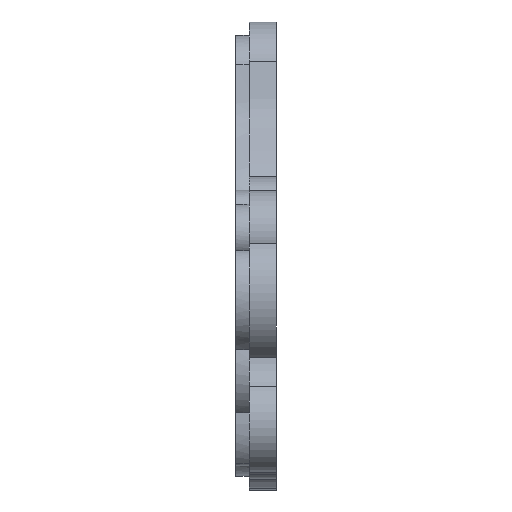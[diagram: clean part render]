
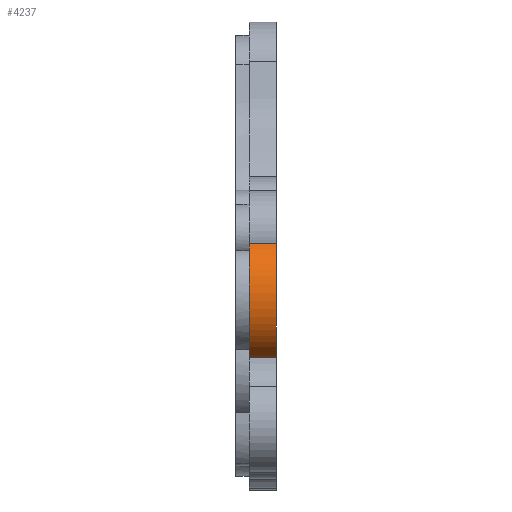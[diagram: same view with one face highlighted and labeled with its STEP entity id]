
A CAD part, left-side view. The second image highlights one B-rep face of the part: STEP entity #4237.
In plain terms, the highlighted free-form (B-spline) face has degree [3, 1] with [12, 2] control points.
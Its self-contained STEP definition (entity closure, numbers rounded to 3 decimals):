
#70 = CARTESIAN_POINT ( 'NONE',  ( -16.659, 0., -5.718 ) ) ;
#101 = VERTEX_POINT ( 'NONE', #4721 ) ;
#196 = CARTESIAN_POINT ( 'NONE',  ( -15.044, 2., -6.922 ) ) ;
#292 = CARTESIAN_POINT ( 'NONE',  ( -16.659, 2., -5.718 ) ) ;
#364 = CARTESIAN_POINT ( 'NONE',  ( -16.659, 2., -5.718 ) ) ;
#475 = CARTESIAN_POINT ( 'NONE',  ( -15.962, 0., 1.367 ) ) ;
#699 = CARTESIAN_POINT ( 'NONE',  ( -17.126, 0., 0.212 ) ) ;
#781 = CARTESIAN_POINT ( 'NONE',  ( -17.848, 0., -2.313 ) ) ;
#827 = CARTESIAN_POINT ( 'NONE',  ( -15.328, 0., -6.771 ) ) ;
#976 = VECTOR ( 'NONE', #4507, 1000. ) ;
#996 = CARTESIAN_POINT ( 'NONE',  ( -15.328, 2., -6.771 ) ) ;
#1032 = CARTESIAN_POINT ( 'NONE',  ( -17.706, 2., -3.611 ) ) ;
#1074 = CARTESIAN_POINT ( 'NONE',  ( -16.427, 0., 1.018 ) ) ;
#1100 = CARTESIAN_POINT ( 'NONE',  ( -17.655, 2., -0.931 ) ) ;
#1116 = VERTEX_POINT ( 'NONE', #1661 ) ;
#1152 = CARTESIAN_POINT ( 'NONE',  ( -16.427, 0., 1.018 ) ) ;
#1281 = EDGE_CURVE ( 'NONE', #4601, #101, #2661, .T. ) ;
#1431 = CARTESIAN_POINT ( 'NONE',  ( -15.328, 2., -6.771 ) ) ;
#1473 = CARTESIAN_POINT ( 'NONE',  ( -17.848, 2., -2.313 ) ) ;
#1499 = CARTESIAN_POINT ( 'NONE',  ( -15.862, 0., -6.448 ) ) ;
#1661 = CARTESIAN_POINT ( 'NONE',  ( -15.719, 0., 1.51 ) ) ;
#1793 = CARTESIAN_POINT ( 'NONE',  ( -15.862, 2., -6.448 ) ) ;
#1812 = CARTESIAN_POINT ( 'NONE',  ( -15.719, 2., 1.51 ) ) ;
#1862 = CARTESIAN_POINT ( 'NONE',  ( -17.292, 0., -4.763 ) ) ;
#1882 = CARTESIAN_POINT ( 'NONE',  ( -15.044, 2., -6.922 ) ) ;
#1932 = CARTESIAN_POINT ( 'NONE',  ( -17.655, 0., -0.931 ) ) ;
#2032 = VECTOR ( 'NONE', #3435, 1000. ) ;
#2171 = ORIENTED_EDGE ( 'NONE', *, *, #1281, .T. ) ;
#2198 = CARTESIAN_POINT ( 'NONE',  ( -17.848, 0., -2.313 ) ) ;
#2201 = LINE ( 'NONE', #4157, #976 ) ;
#2233 = EDGE_CURVE ( 'NONE', #4809, #1116, #2201, .T. ) ;
#2276 = CARTESIAN_POINT ( 'NONE',  ( -15.044, 0., -6.922 ) ) ;
#2480 = B_SPLINE_SURFACE_WITH_KNOTS ( 'NONE', 3, 1, ( 
 ( #1812, #3318 ),
 ( #4081, #2946 ),
 ( #4455, #1074 ),
 ( #2570, #699 ),
 ( #1100, #4006 ),
 ( #1473, #2198 ),
 ( #3634, #2973 ),
 ( #4480, #1862 ),
 ( #364, #4106 ),
 ( #4871, #1499 ),
 ( #996, #2498 ),
 ( #2671, #2276 ) ),
 .UNSPECIFIED., .F., .F., .F.,
 ( 4, 1, 1, 1, 1, 1, 1, 1, 1, 4 ),
 ( 2, 2 ),
 ( 0.066, 0.119, 0.171, 0.276, 0.382, 0.487, 0.592, 0.698, 0.803, 0.908 ),
 ( 0., 1. ),
 .UNSPECIFIED. ) ;
#2498 = CARTESIAN_POINT ( 'NONE',  ( -15.328, 0., -6.771 ) ) ;
#2503 = B_SPLINE_CURVE_WITH_KNOTS ( 'NONE', 3,
 ( #3401, #475, #1152, #4205, #1932, #781, #3442, #2997, #70, #4502, #827, #3830 ),
 .UNSPECIFIED., .F., .F.,
 ( 4, 1, 1, 1, 1, 1, 1, 1, 1, 4 ),
 ( 0.066, 0.119, 0.171, 0.276, 0.382, 0.487, 0.592, 0.698, 0.803, 0.908 ),
 .UNSPECIFIED. ) ;
#2570 = CARTESIAN_POINT ( 'NONE',  ( -17.126, 2., 0.212 ) ) ;
#2582 = EDGE_LOOP ( 'NONE', ( #3624, #3506, #3040, #2171 ) ) ;
#2585 = CARTESIAN_POINT ( 'NONE',  ( -15.044, 2., -6.922 ) ) ;
#2661 = LINE ( 'NONE', #2585, #2032 ) ;
#2671 = CARTESIAN_POINT ( 'NONE',  ( -15.044, 2., -6.922 ) ) ;
#2826 = CARTESIAN_POINT ( 'NONE',  ( -17.126, 2., 0.212 ) ) ;
#2906 = CARTESIAN_POINT ( 'NONE',  ( -15.962, 2., 1.367 ) ) ;
#2946 = CARTESIAN_POINT ( 'NONE',  ( -15.962, 0., 1.367 ) ) ;
#2973 = CARTESIAN_POINT ( 'NONE',  ( -17.706, 0., -3.611 ) ) ;
#2997 = CARTESIAN_POINT ( 'NONE',  ( -17.292, 0., -4.763 ) ) ;
#3040 = ORIENTED_EDGE ( 'NONE', *, *, #3940, .T. ) ;
#3318 = CARTESIAN_POINT ( 'NONE',  ( -15.719, 0., 1.51 ) ) ;
#3340 = CARTESIAN_POINT ( 'NONE',  ( -15.719, 2., 1.51 ) ) ;
#3401 = CARTESIAN_POINT ( 'NONE',  ( -15.719, 0., 1.51 ) ) ;
#3435 = DIRECTION ( 'NONE',  ( 0., -1., 0. ) ) ;
#3442 = CARTESIAN_POINT ( 'NONE',  ( -17.706, 0., -3.611 ) ) ;
#3506 = ORIENTED_EDGE ( 'NONE', *, *, #2233, .F. ) ;
#3576 = CARTESIAN_POINT ( 'NONE',  ( -17.655, 2., -0.931 ) ) ;
#3624 = ORIENTED_EDGE ( 'NONE', *, *, #4345, .F. ) ;
#3634 = CARTESIAN_POINT ( 'NONE',  ( -17.706, 2., -3.611 ) ) ;
#3668 = CARTESIAN_POINT ( 'NONE',  ( -16.427, 2., 1.018 ) ) ;
#3684 = FACE_OUTER_BOUND ( 'NONE', #2582, .T. ) ;
#3830 = CARTESIAN_POINT ( 'NONE',  ( -15.044, 0., -6.922 ) ) ;
#3940 = EDGE_CURVE ( 'NONE', #4809, #4601, #4484, .T. ) ;
#4006 = CARTESIAN_POINT ( 'NONE',  ( -17.655, 0., -0.931 ) ) ;
#4043 = CARTESIAN_POINT ( 'NONE',  ( -17.292, 2., -4.763 ) ) ;
#4069 = CARTESIAN_POINT ( 'NONE',  ( -15.719, 2., 1.51 ) ) ;
#4081 = CARTESIAN_POINT ( 'NONE',  ( -15.962, 2., 1.367 ) ) ;
#4106 = CARTESIAN_POINT ( 'NONE',  ( -16.659, 0., -5.718 ) ) ;
#4157 = CARTESIAN_POINT ( 'NONE',  ( -15.719, 2., 1.51 ) ) ;
#4205 = CARTESIAN_POINT ( 'NONE',  ( -17.126, 0., 0.212 ) ) ;
#4237 = ADVANCED_FACE ( 'NONE', ( #3684 ), #2480, .T. ) ;
#4345 = EDGE_CURVE ( 'NONE', #1116, #101, #2503, .T. ) ;
#4416 = CARTESIAN_POINT ( 'NONE',  ( -17.848, 2., -2.313 ) ) ;
#4455 = CARTESIAN_POINT ( 'NONE',  ( -16.427, 2., 1.018 ) ) ;
#4480 = CARTESIAN_POINT ( 'NONE',  ( -17.292, 2., -4.763 ) ) ;
#4484 = B_SPLINE_CURVE_WITH_KNOTS ( 'NONE', 3,
 ( #4069, #2906, #3668, #2826, #3576, #4416, #1032, #4043, #292, #1793, #1431, #196 ),
 .UNSPECIFIED., .F., .F.,
 ( 4, 1, 1, 1, 1, 1, 1, 1, 1, 4 ),
 ( 0.066, 0.119, 0.171, 0.276, 0.382, 0.487, 0.592, 0.698, 0.803, 0.908 ),
 .UNSPECIFIED. ) ;
#4502 = CARTESIAN_POINT ( 'NONE',  ( -15.862, 0., -6.448 ) ) ;
#4507 = DIRECTION ( 'NONE',  ( 0., -1., 0. ) ) ;
#4601 = VERTEX_POINT ( 'NONE', #1882 ) ;
#4721 = CARTESIAN_POINT ( 'NONE',  ( -15.044, 0., -6.922 ) ) ;
#4809 = VERTEX_POINT ( 'NONE', #3340 ) ;
#4871 = CARTESIAN_POINT ( 'NONE',  ( -15.862, 2., -6.448 ) ) ;
